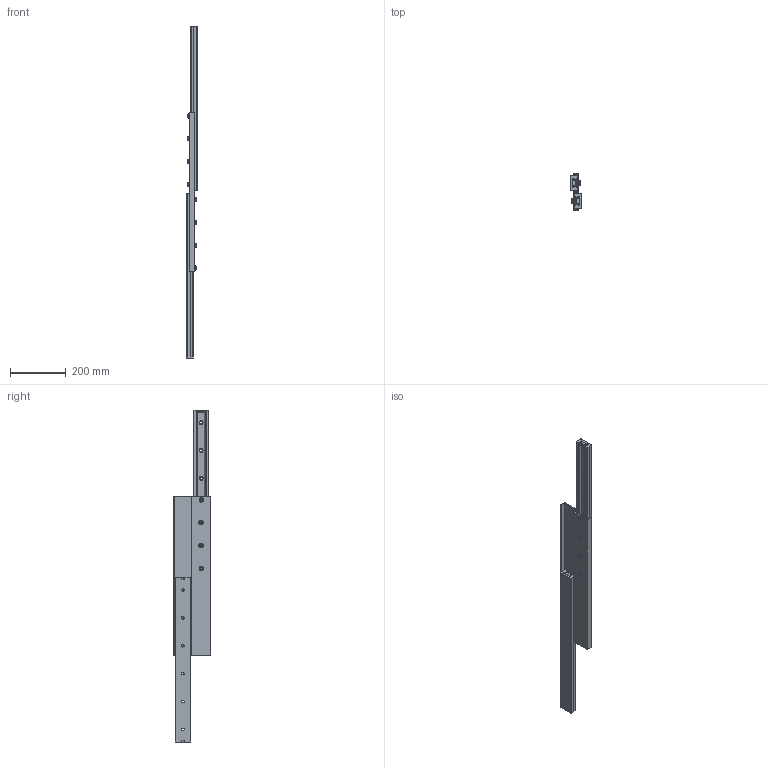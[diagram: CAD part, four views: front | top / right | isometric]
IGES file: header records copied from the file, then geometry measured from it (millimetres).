
Start section: SolidWorks IGES file using analytic representation for surfaces
Global section: file name: C:\Users\tsuch\OneDrive\デスクトップ\LSIMモジュール化図面\LSIM-DV(3D)\iges形式\LSIM55DVL.IGS; native system: SolidWorks 2019; preprocessor: SolidWorks 2019; author: tsuch; date: 210614.084725; units: millimetre
Bounding box: 38.4 x 134 x 1190 mm (x, y, z)
Surface area: 475995.2 mm2 (no closed solid volume)
Topology: 0 solids, 0 shells, 630 faces, 10148 edges, 10148 vertices
Faces by surface type: revolution 338, bspline 292
